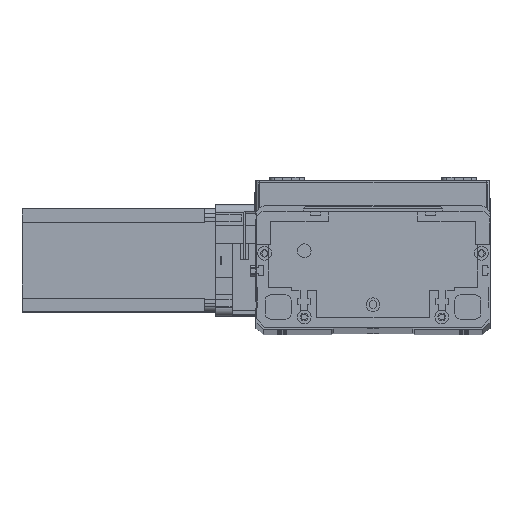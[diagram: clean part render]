
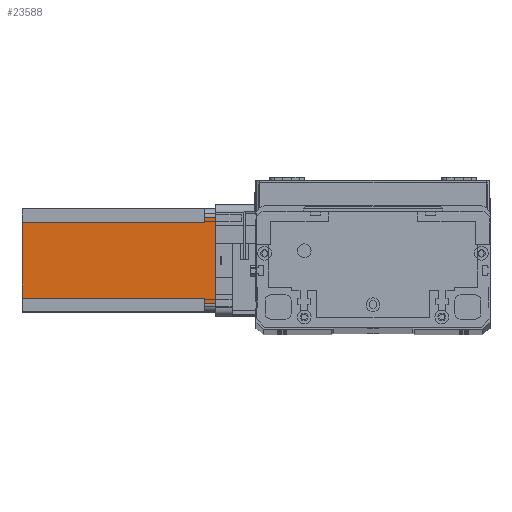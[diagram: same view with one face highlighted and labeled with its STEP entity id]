
A CAD part, top view. The second image highlights one B-rep face of the part: STEP entity #23588.
In plain terms, the highlighted planar face has unit normal (0, 0, 1) as drawn and (0, -1, 0) by its records, which use the part's own axes.
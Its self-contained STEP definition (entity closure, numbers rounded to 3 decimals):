
#12 = DIRECTION ( 'NONE',  ( -1., 0., 0. ) ) ;
#127 = DIRECTION ( 'NONE',  ( 0., 0., 1. ) ) ;
#132 = VECTOR ( 'NONE', #17744, 1000. ) ;
#1320 = VECTOR ( 'NONE', #6062, 1000. ) ;
#1702 = ORIENTED_EDGE ( 'NONE', *, *, #18859, .F. ) ;
#2832 = VERTEX_POINT ( 'NONE', #9806 ) ;
#3077 = VERTEX_POINT ( 'NONE', #24317 ) ;
#3186 = CARTESIAN_POINT ( 'NONE',  ( 0., 0., -112.5 ) ) ;
#4164 = CARTESIAN_POINT ( 'NONE',  ( 55., 0., 0. ) ) ;
#4338 = DIRECTION ( 'NONE',  ( 1., 0., 0. ) ) ;
#5055 = CARTESIAN_POINT ( 'NONE',  ( 5., 0., 0. ) ) ;
#5186 = ORIENTED_EDGE ( 'NONE', *, *, #19255, .F. ) ;
#5282 = CARTESIAN_POINT ( 'NONE',  ( 52., 0., -6.5 ) ) ;
#5304 = DIRECTION ( 'NONE',  ( 0., -1., 0. ) ) ;
#5885 = ORIENTED_EDGE ( 'NONE', *, *, #19090, .T. ) ;
#6062 = DIRECTION ( 'NONE',  ( 0., 0., -1. ) ) ;
#6511 = VERTEX_POINT ( 'NONE', #12157 ) ;
#7252 = VECTOR ( 'NONE', #15554, 1000. ) ;
#7540 = LINE ( 'NONE', #22591, #1320 ) ;
#9080 = VECTOR ( 'NONE', #4338, 1000. ) ;
#9142 = EDGE_LOOP ( 'NONE', ( #15494, #22621, #20690, #26392, #5186, #1702, #5885, #22741 ) ) ;
#9806 = CARTESIAN_POINT ( 'NONE',  ( 52., 0., -112.5 ) ) ;
#10119 = CARTESIAN_POINT ( 'NONE',  ( 52., 0., -112.5 ) ) ;
#10241 = VERTEX_POINT ( 'NONE', #4164 ) ;
#11842 = LINE ( 'NONE', #24837, #26132 ) ;
#11873 = VECTOR ( 'NONE', #16373, 1000. ) ;
#12157 = CARTESIAN_POINT ( 'NONE',  ( 8., 0., -112.5 ) ) ;
#12345 = CARTESIAN_POINT ( 'NONE',  ( 5., 0., -6.5 ) ) ;
#12815 = CARTESIAN_POINT ( 'NONE',  ( 8., 0., -6.5 ) ) ;
#13123 = VECTOR ( 'NONE', #16235, 1000. ) ;
#14086 = LINE ( 'NONE', #16670, #24270 ) ;
#14307 = CARTESIAN_POINT ( 'NONE',  ( 0., 0., -112.5 ) ) ;
#15470 = FACE_OUTER_BOUND ( 'NONE', #9142, .T. ) ;
#15494 = ORIENTED_EDGE ( 'NONE', *, *, #17765, .T. ) ;
#15554 = DIRECTION ( 'NONE',  ( 0., 0., 1. ) ) ;
#15643 = PLANE ( 'NONE',  #17520 ) ;
#16078 = LINE ( 'NONE', #18800, #9080 ) ;
#16235 = DIRECTION ( 'NONE',  ( 0., 0., -1. ) ) ;
#16373 = DIRECTION ( 'NONE',  ( 1., 0., 0. ) ) ;
#16670 = CARTESIAN_POINT ( 'NONE',  ( 8., 0., -6.5 ) ) ;
#17012 = LINE ( 'NONE', #25684, #7252 ) ;
#17068 = CARTESIAN_POINT ( 'NONE',  ( 55., 0., -6.5 ) ) ;
#17520 = AXIS2_PLACEMENT_3D ( 'NONE', #3186, #5304, #19844 ) ;
#17744 = DIRECTION ( 'NONE',  ( 1., 0., 0. ) ) ;
#17765 = EDGE_CURVE ( 'NONE', #3077, #24661, #26233, .T. ) ;
#18800 = CARTESIAN_POINT ( 'NONE',  ( 0., 0., 0. ) ) ;
#18859 = EDGE_CURVE ( 'NONE', #6511, #23926, #17012, .T. ) ;
#19090 = EDGE_CURVE ( 'NONE', #6511, #2832, #22727, .T. ) ;
#19255 = EDGE_CURVE ( 'NONE', #23926, #21583, #14086, .T. ) ;
#19844 = DIRECTION ( 'NONE',  ( 0., 0., -1. ) ) ;
#20625 = VERTEX_POINT ( 'NONE', #5055 ) ;
#20690 = ORIENTED_EDGE ( 'NONE', *, *, #24576, .F. ) ;
#21583 = VERTEX_POINT ( 'NONE', #12345 ) ;
#22591 = CARTESIAN_POINT ( 'NONE',  ( 5., 0., -112.5 ) ) ;
#22621 = ORIENTED_EDGE ( 'NONE', *, *, #25885, .T. ) ;
#22727 = LINE ( 'NONE', #14307, #11873 ) ;
#22741 = ORIENTED_EDGE ( 'NONE', *, *, #25767, .F. ) ;
#23588 = ADVANCED_FACE ( 'NONE', ( #15470 ), #15643, .T. ) ;
#23926 = VERTEX_POINT ( 'NONE', #12815 ) ;
#24270 = VECTOR ( 'NONE', #12, 1000. ) ;
#24317 = CARTESIAN_POINT ( 'NONE',  ( 52., 0., -6.5 ) ) ;
#24563 = LINE ( 'NONE', #10119, #13123 ) ;
#24576 = EDGE_CURVE ( 'NONE', #20625, #10241, #16078, .T. ) ;
#24661 = VERTEX_POINT ( 'NONE', #17068 ) ;
#24837 = CARTESIAN_POINT ( 'NONE',  ( 55., 0., -112.5 ) ) ;
#25684 = CARTESIAN_POINT ( 'NONE',  ( 8., 0., -112.5 ) ) ;
#25767 = EDGE_CURVE ( 'NONE', #3077, #2832, #24563, .T. ) ;
#25808 = EDGE_CURVE ( 'NONE', #20625, #21583, #7540, .T. ) ;
#25885 = EDGE_CURVE ( 'NONE', #24661, #10241, #11842, .T. ) ;
#26132 = VECTOR ( 'NONE', #127, 1000. ) ;
#26233 = LINE ( 'NONE', #5282, #132 ) ;
#26392 = ORIENTED_EDGE ( 'NONE', *, *, #25808, .T. ) ;
